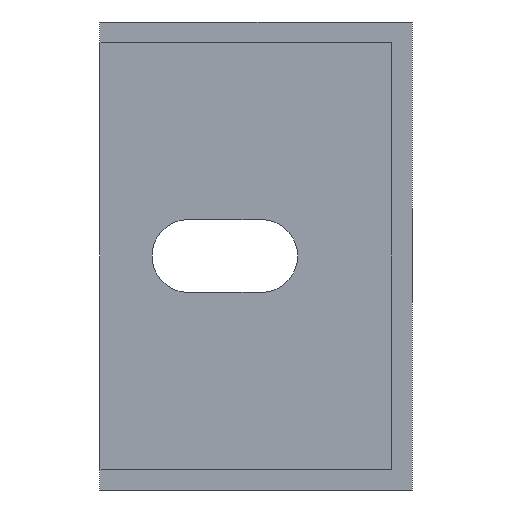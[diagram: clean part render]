
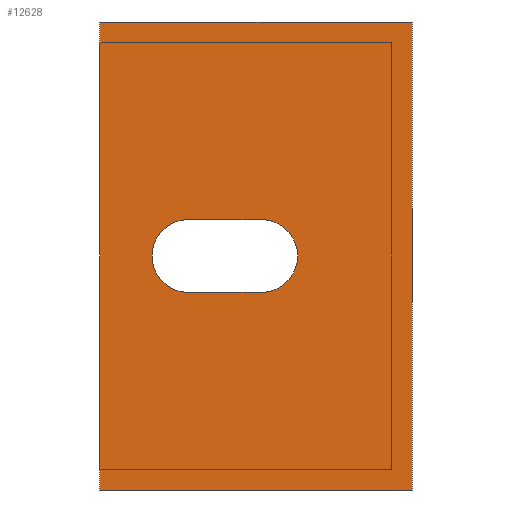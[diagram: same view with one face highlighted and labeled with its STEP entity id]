
A CAD part, left-side view. The second image highlights one B-rep face of the part: STEP entity #12628.
In plain terms, the highlighted planar face has unit normal (-1, 0, 0).
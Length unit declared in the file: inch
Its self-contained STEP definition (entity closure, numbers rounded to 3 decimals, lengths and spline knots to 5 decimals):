
#14=DIRECTION('',(0.,-1.,0.));
#15=VECTOR('',#14,1.1811);
#16=CARTESIAN_POINT('',(-17.75591,1.1811,0.88583));
#17=LINE('',#16,#15);
#376=DIRECTION('',(0.,0.,-1.));
#377=VECTOR('',#376,1.77165);
#378=CARTESIAN_POINT('',(-17.75591,0.,0.88583));
#379=LINE('',#378,#377);
#1308=DIRECTION('',(0.,1.,0.));
#1309=VECTOR('',#1308,1.1811);
#1310=CARTESIAN_POINT('',(-17.75591,0.,-0.88583));
#1311=LINE('',#1310,#1309);
#1680=DIRECTION('',(0.,0.,1.));
#1681=VECTOR('',#1680,1.77165);
#1682=CARTESIAN_POINT('',(-17.75591,1.1811,
-0.88583));
#1683=LINE('',#1682,#1681);
#1692=CARTESIAN_POINT('',(-17.75591,0.57087,0.));
#1693=DIRECTION('',(1.,0.,0.));
#1694=DIRECTION('',(0.,0.,1.));
#1695=AXIS2_PLACEMENT_3D('',#1692,#1693,#1694);
#1697=CARTESIAN_POINT('',(-17.75591,0.84646,0.));
#1698=DIRECTION('',(1.,0.,0.));
#1699=DIRECTION('',(0.,0.,-1.));
#1700=AXIS2_PLACEMENT_3D('',#1697,#1698,#1699);
#1710=DIRECTION('',(0.,-1.,0.));
#1711=VECTOR('',#1710,0.27559);
#1712=CARTESIAN_POINT('',(-17.75591,0.84646,
-0.1378));
#1713=LINE('',#1712,#1711);
#1726=DIRECTION('',(0.,1.,0.));
#1727=VECTOR('',#1726,0.27559);
#1728=CARTESIAN_POINT('',(-17.75591,0.57087,
0.1378));
#1729=LINE('',#1728,#1727);
#8278=CARTESIAN_POINT('',(-17.75591,0.57087,
0.1378));
#8280=VERTEX_POINT('',#8278);
#8352=CARTESIAN_POINT('',(-17.75591,1.1811,
0.88583));
#8353=CARTESIAN_POINT('',(-17.75591,0.,0.88583));
#8354=VERTEX_POINT('',#8352);
#8355=VERTEX_POINT('',#8353);
#8846=CARTESIAN_POINT('',(-17.75591,0.84646,
0.1378));
#8847=VERTEX_POINT('',#8846);
#9122=CARTESIAN_POINT('',(-17.75591,1.1811,
-0.88583));
#9123=VERTEX_POINT('',#9122);
#9188=CARTESIAN_POINT('',(-17.75591,0.57087,
-0.1378));
#9189=VERTEX_POINT('',#9188);
#9204=CARTESIAN_POINT('',(-17.75591,0.,-0.88583));
#9205=VERTEX_POINT('',#9204);
#9220=CARTESIAN_POINT('',(-17.75591,0.84646,
-0.1378));
#9221=VERTEX_POINT('',#9220);
#12607=CARTESIAN_POINT('',(-17.75591,0.,5.76728));
#12608=DIRECTION('',(-1.,0.,0.));
#12609=DIRECTION('',(0.,-1.,0.));
#12610=AXIS2_PLACEMENT_3D('',#12607,#12608,#12609);
#12611=PLANE('',#12610);
#12612=ORIENTED_EDGE('',*,*,#11412,.T.);
#12613=ORIENTED_EDGE('',*,*,#11996,.T.);
#12614=ORIENTED_EDGE('',*,*,#12590,.T.);
#12615=ORIENTED_EDGE('',*,*,#10837,.T.);
#12616=EDGE_LOOP('',(#12612,#12613,#12614,#12615));
#12617=FACE_OUTER_BOUND('',#12616,.F.);
#12619=ORIENTED_EDGE('',*,*,#12618,.F.);
#12621=ORIENTED_EDGE('',*,*,#12620,.T.);
#12623=ORIENTED_EDGE('',*,*,#12622,.F.);
#12625=ORIENTED_EDGE('',*,*,#12624,.T.);
#12626=EDGE_LOOP('',(#12619,#12621,#12623,#12625));
#12627=FACE_BOUND('',#12626,.F.);
#1696=CIRCLE('',#1695,0.1378);
#1701=CIRCLE('',#1700,0.1378);
#10837=EDGE_CURVE('',#8354,#8355,#17,.T.);
#11412=EDGE_CURVE('',#8355,#9205,#379,.T.);
#11996=EDGE_CURVE('',#9205,#9123,#1311,.T.);
#12590=EDGE_CURVE('',#9123,#8354,#1683,.T.);
#12618=EDGE_CURVE('',#8280,#9189,#1696,.T.);
#12620=EDGE_CURVE('',#8280,#8847,#1729,.T.);
#12622=EDGE_CURVE('',#9221,#8847,#1701,.T.);
#12624=EDGE_CURVE('',#9221,#9189,#1713,.T.);
#12628=ADVANCED_FACE('',(#12617,#12627),#12611,.T.);
